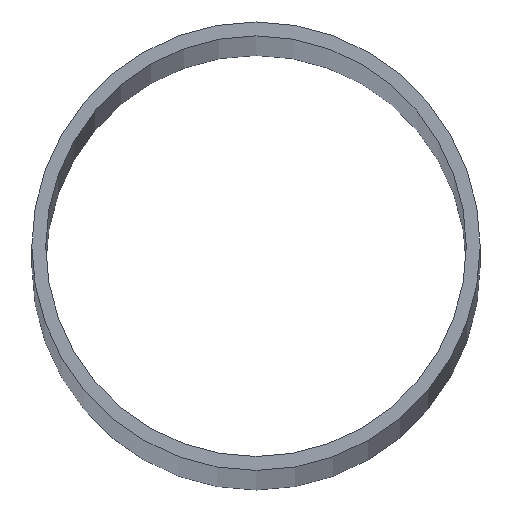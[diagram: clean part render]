
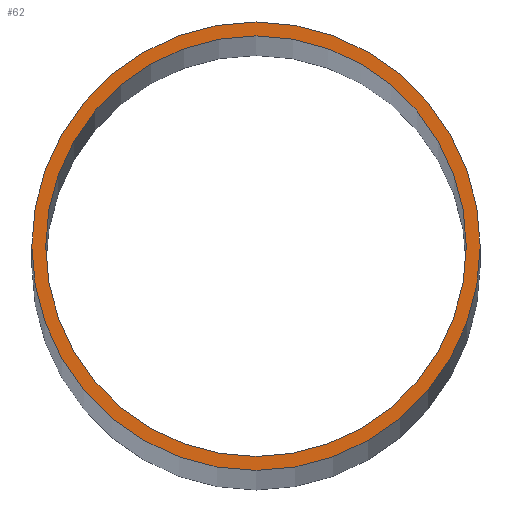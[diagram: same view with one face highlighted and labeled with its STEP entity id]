
A CAD part, top view. The second image highlights one B-rep face of the part: STEP entity #62.
In plain terms, the highlighted planar face has unit normal (0, 0, 1).
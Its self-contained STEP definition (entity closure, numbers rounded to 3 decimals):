
#15=PLANE('',#90);
#19=FACE_BOUND('',#31,.T.);
#23=FACE_OUTER_BOUND('',#30,.T.);
#30=EDGE_LOOP('',(#50));
#31=EDGE_LOOP('',(#51));
#32=CIRCLE('',#84,93.8);
#34=CIRCLE('',#87,100.);
#36=VERTEX_POINT('',#111);
#38=VERTEX_POINT('',#116);
#40=EDGE_CURVE('',#36,#36,#32,.T.);
#42=EDGE_CURVE('',#38,#38,#34,.T.);
#50=ORIENTED_EDGE('',*,*,#42,.T.);
#51=ORIENTED_EDGE('',*,*,#40,.T.);
#62=ADVANCED_FACE('',(#23,#19),#15,.T.);
#84=AXIS2_PLACEMENT_3D('',#112,#95,#96);
#87=AXIS2_PLACEMENT_3D('',#117,#101,#102);
#90=AXIS2_PLACEMENT_3D('',#121,#107,#108);
#95=DIRECTION('center_axis',(0.,0.,-1.));
#96=DIRECTION('ref_axis',(-1.,0.,0.));
#101=DIRECTION('center_axis',(0.,0.,1.));
#102=DIRECTION('ref_axis',(-1.,0.,0.));
#107=DIRECTION('center_axis',(0.,0.,1.));
#108=DIRECTION('ref_axis',(1.,0.,0.));
#111=CARTESIAN_POINT('',(93.8,0.,5000.));
#112=CARTESIAN_POINT('Origin',(0.,0.,5000.));
#116=CARTESIAN_POINT('',(100.,0.,5000.));
#117=CARTESIAN_POINT('Origin',(0.,0.,5000.));
#121=CARTESIAN_POINT('Origin',(0.,0.,5000.));
